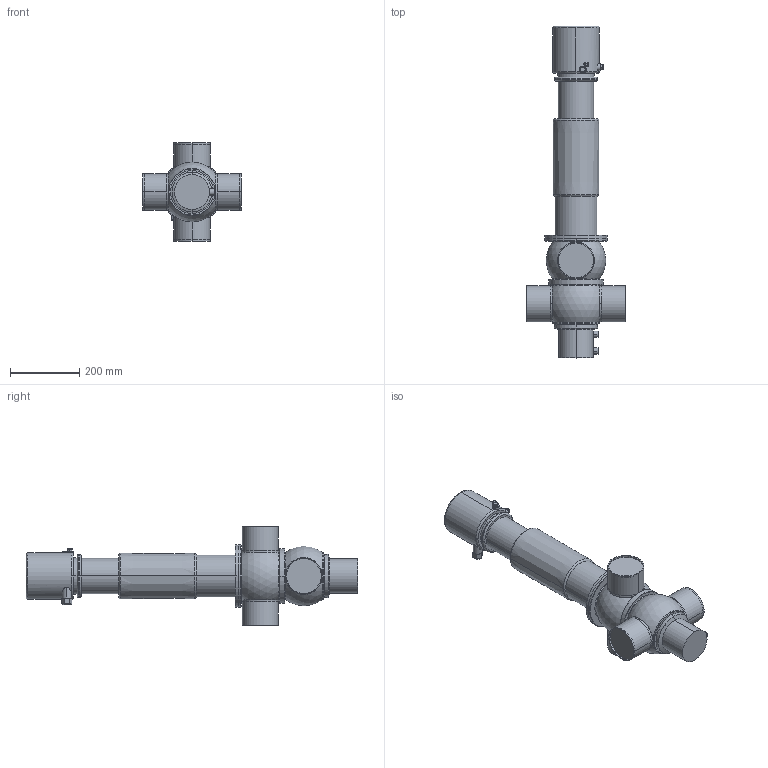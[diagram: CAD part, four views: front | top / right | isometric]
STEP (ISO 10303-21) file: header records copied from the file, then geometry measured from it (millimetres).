
FILE_DESCRIPTION(('Creo Elements/Direct Modeling STEP Export'),'2;1');
FILE_NAME('D44-100_CU4.stp','2019-09-03T15:02:19',(''),(''),'PTC Creo Elements/Direct Modeling STEP processor for AP214 (Solid Model)','PTC Creo Elements/Direct Modeling 19.0B 21-Mar-2015 (C) Parametric Technology GmbH','');
FILE_SCHEMA(('AUTOMOTIVE_DESIGN { 1 0 10303 214 1 1 1 1 }'));
Length unit declared in the file: millimetre
Products named in the file (5): actuator_D4-125_yoke; CU41-D4; drain_pipe_92; housing_D44-100; D44-100_CU4
Assembly tree (4 placements, depth 2):
  D44-100_CU4
    housing_D44-100
    drain_pipe_92
    CU41-D4
    actuator_D4-125_yoke
Bounding box: 285 x 956.35 x 285 mm (x, y, z)
Volume: 15514087.6 mm3; surface area: 685785.5 mm2
Topology: 4 solids, 4 shells, 251 faces, 587 edges, 372 vertices
Faces by surface type: cylinder 98, plane 63, torus 44, extrusion 33, cone 8, sphere 5
Entity records: 10975 total; most frequent: CARTESIAN_POINT 5584, ORIENTED_EDGE 1170, DIRECTION 990, EDGE_CURVE 585, AXIS2_PLACEMENT_3D 395, VERTEX_POINT 372, EDGE_LOOP 281, FACE_OUTER_BOUND 251
